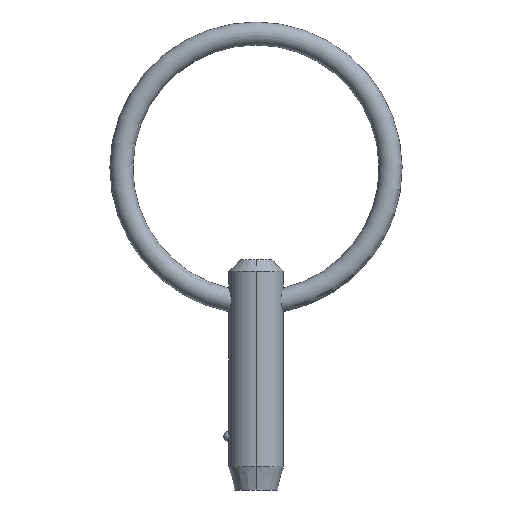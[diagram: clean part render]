
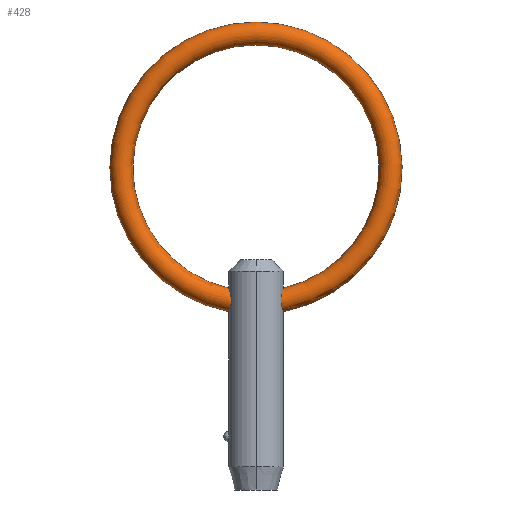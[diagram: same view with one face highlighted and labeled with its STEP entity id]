
A CAD part, left-side view. The second image highlights one B-rep face of the part: STEP entity #428.
In plain terms, the highlighted toroidal (fillet/blend) face has major radius 11.7 mm and minor radius 1 mm.
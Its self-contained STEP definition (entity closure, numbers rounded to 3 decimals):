
#7 = CARTESIAN_POINT ( 'NONE',  ( -0.133, 2.38, 12.468 ) ) ;
#11 = FACE_OUTER_BOUND ( 'NONE', #251, .T. ) ;
#18 = CARTESIAN_POINT ( 'NONE',  ( -0.88, -2.219, 11.96 ) ) ;
#29 = B_SPLINE_CURVE_WITH_KNOTS ( 'NONE', 3,
 ( #127, #203, #243, #300, #129, #375, #163, #462, #377, #239, #18, #267, #54, #30, #342, #65 ),
 .UNSPECIFIED., .F., .F.,
 ( 4, 2, 2, 2, 2, 2, 2, 4 ),
 ( 0.006, 0.006, 0.007, 0.007, 0.007, 0.008, 0.009, 0.009 ),
 .UNSPECIFIED. ) ;
#30 = CARTESIAN_POINT ( 'NONE',  ( -0.267, -2.368, 12.437 ) ) ;
#45 = CARTESIAN_POINT ( 'NONE',  ( 0., 2.38, 10.425 ) ) ;
#47 = CARTESIAN_POINT ( 'NONE',  ( -0.975, 2.171, 11.167 ) ) ;
#54 = CARTESIAN_POINT ( 'NONE',  ( -0.505, -2.329, 12.326 ) ) ;
#56 = DIRECTION ( 'NONE',  ( 1., 0., 0. ) ) ;
#65 = CARTESIAN_POINT ( 'NONE',  ( 0., -2.38, 12.468 ) ) ;
#85 = CARTESIAN_POINT ( 'NONE',  ( -0.997, 2.161, 11.298 ) ) ;
#86 = AXIS2_PLACEMENT_3D ( 'NONE', #452, #261, #290 ) ;
#93 = CARTESIAN_POINT ( 'NONE',  ( 0., 0., 22.9 ) ) ;
#96 = VERTEX_POINT ( 'NONE', #152 ) ;
#104 = CIRCLE ( 'NONE', #171, 12.7 ) ;
#114 = CARTESIAN_POINT ( 'NONE',  ( -0.996, 2.162, 11.565 ) ) ;
#121 = CARTESIAN_POINT ( 'NONE',  ( -0.507, 2.329, 12.325 ) ) ;
#122 = CARTESIAN_POINT ( 'NONE',  ( -0.267, 2.368, 10.451 ) ) ;
#127 = CARTESIAN_POINT ( 'NONE',  ( 0., -2.38, 10.425 ) ) ;
#129 = CARTESIAN_POINT ( 'NONE',  ( -0.626, -2.298, 10.622 ) ) ;
#144 = VERTEX_POINT ( 'NONE', #148 ) ;
#148 = CARTESIAN_POINT ( 'NONE',  ( 0., -2.38, 10.425 ) ) ;
#152 = CARTESIAN_POINT ( 'NONE',  ( 0., 2.38, 12.468 ) ) ;
#159 = ORIENTED_EDGE ( 'NONE', *, *, #417, .F. ) ;
#163 = CARTESIAN_POINT ( 'NONE',  ( -0.885, -2.21, 10.917 ) ) ;
#166 = DIRECTION ( 'NONE',  ( 1., 0., 0. ) ) ;
#171 = AXIS2_PLACEMENT_3D ( 'NONE', #93, #166, #431 ) ;
#172 = EDGE_CURVE ( 'NONE', #96, #174, #271, .T. ) ;
#174 = VERTEX_POINT ( 'NONE', #189 ) ;
#188 = CARTESIAN_POINT ( 'NONE',  ( -1.001, 2.159, 11.364 ) ) ;
#189 = CARTESIAN_POINT ( 'NONE',  ( 0., -2.38, 12.468 ) ) ;
#190 = TOROIDAL_SURFACE ( 'NONE', #240, 11.7, 1. ) ;
#195 = CARTESIAN_POINT ( 'NONE',  ( -0.614, 2.301, 12.245 ) ) ;
#203 = CARTESIAN_POINT ( 'NONE',  ( -0.133, -2.38, 10.425 ) ) ;
#221 = ORIENTED_EDGE ( 'NONE', *, *, #470, .F. ) ;
#233 = CARTESIAN_POINT ( 'NONE',  ( -0.626, 2.298, 10.622 ) ) ;
#239 = CARTESIAN_POINT ( 'NONE',  ( -0.991, -2.164, 11.701 ) ) ;
#240 = AXIS2_PLACEMENT_3D ( 'NONE', #336, #56, #304 ) ;
#243 = CARTESIAN_POINT ( 'NONE',  ( -0.268, -2.368, 10.451 ) ) ;
#251 = EDGE_LOOP ( 'NONE', ( #159, #281, #469, #221 ) ) ;
#257 = CARTESIAN_POINT ( 'NONE',  ( -0.512, 2.328, 10.548 ) ) ;
#261 = DIRECTION ( 'NONE',  ( 1., 0., 0. ) ) ;
#267 = CARTESIAN_POINT ( 'NONE',  ( -0.613, -2.302, 12.246 ) ) ;
#271 = CIRCLE ( 'NONE', #86, 10.7 ) ;
#281 = ORIENTED_EDGE ( 'NONE', *, *, #347, .F. ) ;
#290 = DIRECTION ( 'NONE',  ( 0., 0., -1. ) ) ;
#298 = CARTESIAN_POINT ( 'NONE',  ( -0.267, 2.368, 12.437 ) ) ;
#300 = CARTESIAN_POINT ( 'NONE',  ( -0.514, -2.327, 10.549 ) ) ;
#304 = DIRECTION ( 'NONE',  ( 0., 0., -1. ) ) ;
#336 = CARTESIAN_POINT ( 'NONE',  ( 0., 0., 22.9 ) ) ;
#342 = CARTESIAN_POINT ( 'NONE',  ( -0.134, -2.38, 12.468 ) ) ;
#347 = EDGE_CURVE ( 'NONE', #96, #348, #394, .T. ) ;
#348 = VERTEX_POINT ( 'NONE', #45 ) ;
#362 = CARTESIAN_POINT ( 'NONE',  ( -0.811, 2.24, 10.805 ) ) ;
#368 = CARTESIAN_POINT ( 'NONE',  ( 0., 2.38, 10.425 ) ) ;
#370 = CARTESIAN_POINT ( 'NONE',  ( -0.966, 2.176, 11.696 ) ) ;
#375 = CARTESIAN_POINT ( 'NONE',  ( -0.811, -2.24, 10.806 ) ) ;
#377 = CARTESIAN_POINT ( 'NONE',  ( -1.004, -2.158, 11.299 ) ) ;
#394 = B_SPLINE_CURVE_WITH_KNOTS ( 'NONE', 3,
 ( #418, #7, #298, #121, #195, #410, #457, #370, #114, #188, #85, #47, #453, #450, #362, #233, #257, #122, #416, #368 ),
 .UNSPECIFIED., .F., .F.,
 ( 4, 2, 2, 2, 2, 2, 2, 2, 2, 4 ),
 ( 0.004, 0.004, 0.005, 0.005, 0.005, 0.006, 0.006, 0.006, 0.007, 0.007 ),
 .UNSPECIFIED. ) ;
#410 = CARTESIAN_POINT ( 'NONE',  ( -0.793, 2.246, 12.052 ) ) ;
#416 = CARTESIAN_POINT ( 'NONE',  ( -0.133, 2.38, 10.425 ) ) ;
#417 = EDGE_CURVE ( 'NONE', #348, #144, #104, .T. ) ;
#418 = CARTESIAN_POINT ( 'NONE',  ( 0., 2.38, 12.468 ) ) ;
#428 = ADVANCED_FACE ( 'NONE', ( #11 ), #190, .T. ) ;
#431 = DIRECTION ( 'NONE',  ( 0., 0., -1. ) ) ;
#450 = CARTESIAN_POINT ( 'NONE',  ( -0.885, 2.21, 10.917 ) ) ;
#452 = CARTESIAN_POINT ( 'NONE',  ( 0., 0., 22.9 ) ) ;
#453 = CARTESIAN_POINT ( 'NONE',  ( -0.957, 2.179, 11.102 ) ) ;
#457 = CARTESIAN_POINT ( 'NONE',  ( -0.864, 2.218, 11.941 ) ) ;
#462 = CARTESIAN_POINT ( 'NONE',  ( -0.982, -2.169, 11.165 ) ) ;
#469 = ORIENTED_EDGE ( 'NONE', *, *, #172, .T. ) ;
#470 = EDGE_CURVE ( 'NONE', #144, #174, #29, .T. ) ;
